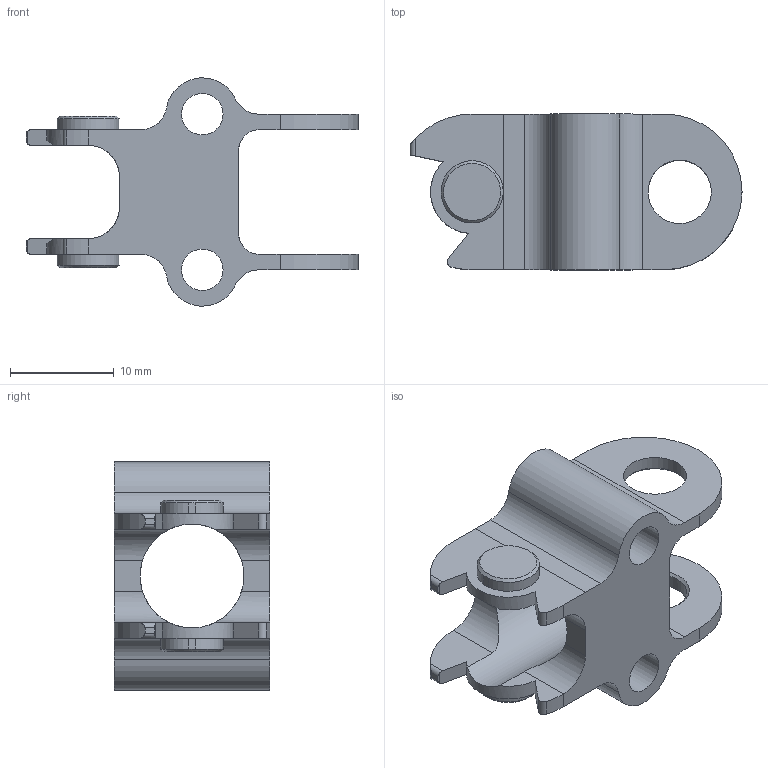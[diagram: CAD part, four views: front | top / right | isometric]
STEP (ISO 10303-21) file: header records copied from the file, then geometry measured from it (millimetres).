
FILE_DESCRIPTION((''),'2;1');
FILE_NAME('C:\Uebbing\PARAMETERKETTEN\KOLIBRI\Kol_15_015_3\Kol_15_015_3_Anschluss.stp','2011-11-02T10:55:06',('Uebbing'),(''),'Autodesk Inventor 10','Autodesk Inventor 10','');
FILE_SCHEMA(('AUTOMOTIVE_DESIGN { 1 0 10303 214 1 1 1 1 }'));
Length unit declared in the file: millimetre
Products named in the file (1): Kol_15_015_3_Anschluss
Bounding box: 31.98 x 15 x 21.99 mm (x, y, z)
Volume: 2485.8 mm3; surface area: 2821.5 mm2
Topology: 1 solids, 1 shells, 66 faces, 190 edges, 126 vertices
Faces by surface type: cylinder 35, plane 27, cone 4
Full cylindrical faces by diameter (mm): 4 x2, 6.1 x2, 10 x1
Entity records: 2298 total; most frequent: CARTESIAN_POINT 556, DIRECTION 359, ORIENTED_EDGE 354, EDGE_CURVE 177, AXIS2_PLACEMENT_3D 133, VERTEX_POINT 122, VECTOR 93, LINE 93
